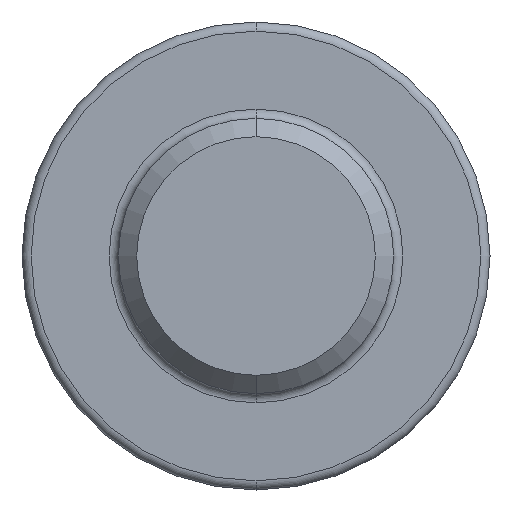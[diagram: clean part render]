
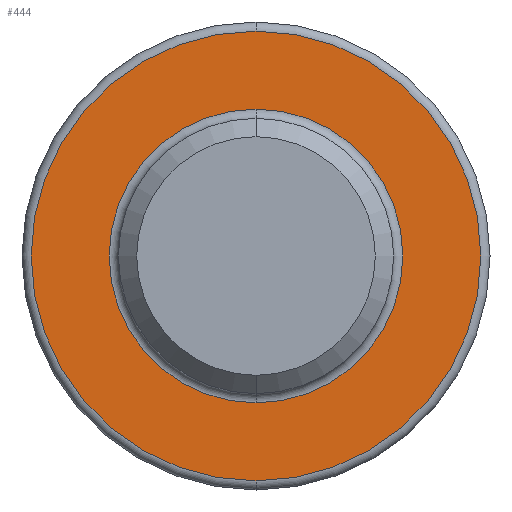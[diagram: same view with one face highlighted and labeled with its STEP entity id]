
A CAD part, front view. The second image highlights one B-rep face of the part: STEP entity #444.
In plain terms, the highlighted planar face has unit normal (0, -1, 0).
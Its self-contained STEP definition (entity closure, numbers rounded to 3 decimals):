
#25 = DIRECTION ( 'NONE',  ( 0., 1., 0. ) ) ;
#29 = FACE_BOUND ( 'NONE', #233, .T. ) ;
#45 = ORIENTED_EDGE ( 'NONE', *, *, #733, .T. ) ;
#63 = VERTEX_POINT ( 'NONE', #289 ) ;
#65 = AXIS2_PLACEMENT_3D ( 'NONE', #300, #25, #241 ) ;
#99 = CARTESIAN_POINT ( 'NONE',  ( 0., -3.2, 0. ) ) ;
#137 = EDGE_LOOP ( 'NONE', ( #699, #413 ) ) ;
#151 = EDGE_CURVE ( 'NONE', #671, #666, #304, .T. ) ;
#201 = DIRECTION ( 'NONE',  ( 0., 0., 1. ) ) ;
#203 = AXIS2_PLACEMENT_3D ( 'NONE', #99, #238, #367 ) ;
#233 = EDGE_LOOP ( 'NONE', ( #363, #45 ) ) ;
#238 = DIRECTION ( 'NONE',  ( 0., 1., 0. ) ) ;
#241 = DIRECTION ( 'NONE',  ( 0., 0., 1. ) ) ;
#247 = DIRECTION ( 'NONE',  ( 0., 0., 1. ) ) ;
#252 = CARTESIAN_POINT ( 'NONE',  ( 0., -3.2, 0. ) ) ;
#253 = AXIS2_PLACEMENT_3D ( 'NONE', #400, #792, #201 ) ;
#263 = VERTEX_POINT ( 'NONE', #517 ) ;
#277 = DIRECTION ( 'NONE',  ( 0., 0., 1. ) ) ;
#289 = CARTESIAN_POINT ( 'NONE',  ( 0., -3.2, 4.9 ) ) ;
#300 = CARTESIAN_POINT ( 'NONE',  ( 3., -3.2, 0. ) ) ;
#304 = CIRCLE ( 'NONE', #203, 3.2 ) ;
#363 = ORIENTED_EDGE ( 'NONE', *, *, #151, .T. ) ;
#367 = DIRECTION ( 'NONE',  ( 0., 0., 1. ) ) ;
#400 = CARTESIAN_POINT ( 'NONE',  ( 0., -3.2, 0. ) ) ;
#404 = CARTESIAN_POINT ( 'NONE',  ( 0., -3.2, 0. ) ) ;
#413 = ORIENTED_EDGE ( 'NONE', *, *, #838, .T. ) ;
#426 = FACE_OUTER_BOUND ( 'NONE', #137, .T. ) ;
#444 = ADVANCED_FACE ( 'NONE', ( #29, #426 ), #705, .F. ) ;
#452 = CIRCLE ( 'NONE', #605, 4.9 ) ;
#484 = CIRCLE ( 'NONE', #253, 4.9 ) ;
#517 = CARTESIAN_POINT ( 'NONE',  ( 0., -3.2, -4.9 ) ) ;
#525 = CARTESIAN_POINT ( 'NONE',  ( 0., -3.2, -3.2 ) ) ;
#602 = EDGE_CURVE ( 'NONE', #63, #263, #484, .T. ) ;
#605 = AXIS2_PLACEMENT_3D ( 'NONE', #252, #701, #247 ) ;
#608 = DIRECTION ( 'NONE',  ( 0., 1., 0. ) ) ;
#643 = AXIS2_PLACEMENT_3D ( 'NONE', #404, #608, #277 ) ;
#666 = VERTEX_POINT ( 'NONE', #525 ) ;
#669 = CARTESIAN_POINT ( 'NONE',  ( 0., -3.2, 3.2 ) ) ;
#671 = VERTEX_POINT ( 'NONE', #669 ) ;
#699 = ORIENTED_EDGE ( 'NONE', *, *, #602, .T. ) ;
#701 = DIRECTION ( 'NONE',  ( 0., -1., 0. ) ) ;
#705 = PLANE ( 'NONE',  #65 ) ;
#733 = EDGE_CURVE ( 'NONE', #666, #671, #815, .T. ) ;
#792 = DIRECTION ( 'NONE',  ( 0., -1., 0. ) ) ;
#815 = CIRCLE ( 'NONE', #643, 3.2 ) ;
#838 = EDGE_CURVE ( 'NONE', #263, #63, #452, .T. ) ;
